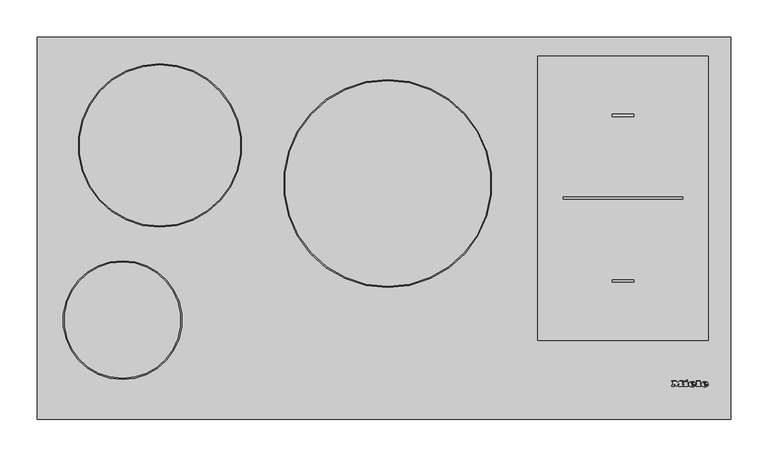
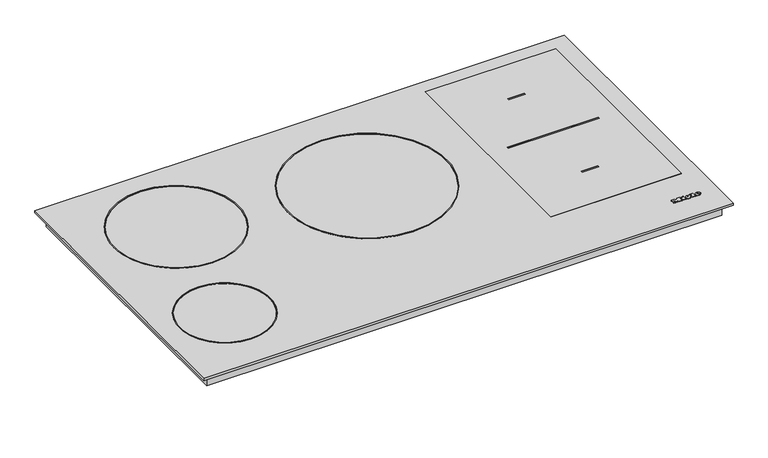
"""IFC4 building model written with IfcOpenShell, lengths in millimetres: proxy geometry, 11512090_CH_KM7629FX : 26762960_CH_11512090_KM7629FX."""

import ifcopenshell
import ifcopenshell.guid

model = None  # the IFC model being written
_history = None  # IfcOwnerHistory: only IFC2X3 demands one
_inside = {}  # id of a spatial element -> (the spatial element, [elements in it])
_under = {}  # id of a project, library or spatial element -> (it, [spatial elements below it])
_declared = {}  # id of a project -> (the project, [libraries it declares])
_typed = {}  # id of a type object -> (the type object, [elements of that type])
_made_of = {}  # id of a material, layer set ... -> (it, [elements and type objects made of it])


def new_model(schema):
    """Start an empty IFC model of exactly this schema.

    Asked for "IFC4X3", IfcOpenShell would pick the latest addendum, in which some entities
    have other attributes; the version numbers below select the first issue.
    IFC2X3 requires an IfcOwnerHistory on every rooted entity: one is made here for all.
    """
    global model, _history
    if schema == "IFC4X3":
        model = ifcopenshell.file(schema_version=(4, 3, 0, 0))
    else:
        model = ifcopenshell.file(schema=schema)
    _inside.clear()
    _under.clear()
    _declared.clear()
    _typed.clear()
    _made_of.clear()
    _history = None
    if model.schema == "IFC2X3":
        org = make("IfcOrganization", Name="unknown")
        user = make(
            "IfcPersonAndOrganization",
            ThePerson=make("IfcPerson", FamilyName="unknown"),
            TheOrganization=org,
        )
        app = make(
            "IfcApplication",
            ApplicationDeveloper=org,
            Version="unknown",
            ApplicationFullName="unknown",
            ApplicationIdentifier="unknown",
        )
        _history = make(
            "IfcOwnerHistory",
            OwningUser=user,
            OwningApplication=app,
            ChangeAction="ADDED",
            CreationDate=0,
        )
    return model


def make(cls, **values):
    """One entity of the class cls with the attributes given. An attribute that is None is left unset."""
    return model.create_entity(
        cls, **{name: value for name, value in values.items() if value is not None}
    )


def rooted(cls, **values):
    """An entity with a GlobalId (a new one), such as an element, a storey or a relation."""
    return make(cls, GlobalId=ifcopenshell.guid.new(), OwnerHistory=_history, **values)


def si_unit(unit_type, name, prefix=None):
    """IfcSIUnit, for example si_unit("LENGTHUNIT", "METRE", prefix="MILLI")."""
    return make("IfcSIUnit", UnitType=unit_type, Prefix=prefix, Name=name)


def assignment(units):
    """IfcUnitAssignment: the units of a project."""
    return None if units is None else make("IfcUnitAssignment", Units=units)


def point(xyz):
    """IfcCartesianPoint."""
    return None if xyz is None else make("IfcCartesianPoint", Coordinates=xyz)


def direction(xyz):
    """IfcDirection."""
    return None if xyz is None else make("IfcDirection", DirectionRatios=xyz)


def frame(location, z_axis=None, x_axis=None):
    """IfcAxis2Placement3D, a coordinate frame: its origin and axes. An axis left out is left unset."""
    return make(
        "IfcAxis2Placement3D",
        Location=point(location),
        Axis=direction(z_axis),
        RefDirection=direction(x_axis),
    )


def frame_2d(location, x_axis=None):
    """IfcAxis2Placement2D, a coordinate frame in the plane: its origin and x axis."""
    return make(
        "IfcAxis2Placement2D", Location=point(location), RefDirection=direction(x_axis)
    )


def origin():
    """The frame at (0, 0, 0) with its axes left unset."""
    return frame((0.0, 0.0, 0.0))


def origin_with_axes():
    """The frame at (0, 0, 0) with the z axis (0, 0, 1) and the x axis (1, 0, 0) written out."""
    return frame((0.0, 0.0, 0.0), z_axis=(0.0, 0.0, 1.0), x_axis=(1.0, 0.0, 0.0))


def place(relative_to, where):
    """IfcLocalPlacement: puts the frame where relative to a parent placement (None: the world)."""
    return make(
        "IfcLocalPlacement", PlacementRelTo=relative_to, RelativePlacement=where
    )


def context(
    kind, dimensions, precision=None, world=None, true_north=None, identifier=None
):
    """IfcGeometricRepresentationContext, for example the 3D "Model" context."""
    return make(
        "IfcGeometricRepresentationContext",
        ContextIdentifier=identifier,
        ContextType=kind,
        CoordinateSpaceDimension=dimensions,
        Precision=precision,
        WorldCoordinateSystem=world,
        TrueNorth=true_north,
    )


def project(units=None, contexts=None):
    """IfcProject with its units and contexts."""
    return rooted(
        "IfcProject",
        Name="project",
        RepresentationContexts=contexts,
        UnitsInContext=assignment(units),
    )


def spatial(cls, under=None, at=None, **own):
    """A site, building, storey or space (cls), placed at a placement, below another one or the project."""
    s = rooted(cls, ObjectPlacement=at, **own)
    if under is not None:
        _under.setdefault(under.id(), (under, []))[1].append(s)
    return s


def polyline(points):
    """IfcPolyline through the points."""
    return make("IfcPolyline", Points=[point(p) for p in points])


def circle_curve(where, radius):
    """IfcCircle in the frame where."""
    return make("IfcCircle", Position=where, Radius=radius)


def ellipse_curve(where, semi_axis1, semi_axis2):
    """IfcEllipse in the frame where."""
    return make(
        "IfcEllipse", Position=where, SemiAxis1=semi_axis1, SemiAxis2=semi_axis2
    )


def trimmed(basis, trim1, trim2, sense, master):
    """IfcTrimmedCurve: the piece of a basis curve between two trims."""
    return make(
        "IfcTrimmedCurve",
        BasisCurve=basis,
        Trim1=trim1,
        Trim2=trim2,
        SenseAgreement=sense,
        MasterRepresentation=master,
    )


def segment(curve, same_sense, transition):
    """IfcCompositeCurveSegment."""
    return make(
        "IfcCompositeCurveSegment",
        Transition=transition,
        SameSense=same_sense,
        ParentCurve=curve,
    )


def composite_curve(segments, self_intersect=None):
    """IfcCompositeCurve: segments joined end to end."""
    return make("IfcCompositeCurve", Segments=segments, SelfIntersect=self_intersect)


def outline(outer, holes=None, kind="AREA"):
    """IfcArbitraryClosedProfileDef: a profile drawn as a closed curve; with holes, ...WithVoids."""
    if holes is None:
        return make("IfcArbitraryClosedProfileDef", ProfileType=kind, OuterCurve=outer)
    return make(
        "IfcArbitraryProfileDefWithVoids",
        ProfileType=kind,
        OuterCurve=outer,
        InnerCurves=holes,
    )


def extrude(swept, where, along, depth):
    """IfcExtrudedAreaSolid: the profile swept, set in the frame where, extruded along a direction by depth."""
    return make(
        "IfcExtrudedAreaSolid",
        SweptArea=swept,
        Position=where,
        ExtrudedDirection=direction(along),
        Depth=depth,
    )


def shape(context_of_items, identifier, shape_type, items):
    """IfcShapeRepresentation: the items that make up one representation, for example the "Body"."""
    return make(
        "IfcShapeRepresentation",
        ContextOfItems=context_of_items,
        RepresentationIdentifier=identifier,
        RepresentationType=shape_type,
        Items=items,
    )


def source(mapping_origin, context_of_items, identifier, shape_type, items):
    """IfcRepresentationMap: a shape defined once, which mapped items show again and again."""
    return make(
        "IfcRepresentationMap",
        MappingOrigin=mapping_origin,
        MappedRepresentation=shape(context_of_items, identifier, shape_type, items),
    )


def transform(
    local_origin,
    x_axis=None,
    y_axis=None,
    z_axis=None,
    scale=None,
    scale2=None,
    scale3=None,
    uniform=True,
):
    """IfcCartesianTransformationOperator3D, or its non-uniform kind. x_axis, y_axis, z_axis: its Axis1, 2, 3."""
    if uniform:
        return make(
            "IfcCartesianTransformationOperator3D",
            Axis1=direction(x_axis),
            Axis2=direction(y_axis),
            LocalOrigin=point(local_origin),
            Scale=scale,
            Axis3=direction(z_axis),
        )
    return make(
        "IfcCartesianTransformationOperator3DnonUniform",
        Axis1=direction(x_axis),
        Axis2=direction(y_axis),
        LocalOrigin=point(local_origin),
        Scale=scale,
        Axis3=direction(z_axis),
        Scale2=scale2,
        Scale3=scale3,
    )


def mapped(mapping_source, mapping_target):
    """IfcMappedItem: shows the shape of a source again, moved by a transform."""
    return make(
        "IfcMappedItem", MappingSource=mapping_source, MappingTarget=mapping_target
    )


def made_of(thing, what):
    """Note that an element or type object is made of a material, layer set ...; save() writes the relation."""
    if what is not None:
        _made_of.setdefault(what.id(), (what, []))[1].append(thing)
    return thing


def element(
    cls,
    number,
    at=None,
    inside=None,
    cuts=None,
    type_object=None,
    material=None,
    context=None,
    identifier="Body",
    shape_type=None,
    held_by="IfcProductDefinitionShape",
    body=None,
    shapes=None,
    **own,
):
    """One element of the class cls, such as IfcWall. Its Tag is "e" and its number.

    at: its placement. inside: the storey or other place that contains it. cuts: it is an
    opening in that element (IfcRelVoidsElement). A single representation is given by context,
    identifier, shape_type and body (its items); several are given by shapes. held_by: the class
    of the entity that holds the representations. save() writes the other relations.
    """
    e = rooted(cls, Tag="e%d" % number, ObjectPlacement=at, **own)
    if body is not None:
        shapes = [shape(context, identifier, shape_type, body)]
    if shapes is not None:
        e.Representation = make(held_by, Representations=shapes)
    if inside is not None:
        _inside.setdefault(inside.id(), (inside, []))[1].append(e)
    if cuts is not None:
        rooted(
            "IfcRelVoidsElement", RelatingBuildingElement=cuts, RelatedOpeningElement=e
        )
    if type_object is not None:
        _typed.setdefault(type_object.id(), (type_object, []))[1].append(e)
    return made_of(e, material)


def aggregate(whole, parts):
    """IfcRelAggregates: a whole, such as a stair, and the parts it consists of."""
    return rooted("IfcRelAggregates", RelatingObject=whole, RelatedObjects=parts)


def save(model, path):
    """Write the relations noted so far, then the file.

    IfcRelAggregates (storeys below a building ...), IfcRelContainedInSpatialStructure (elements
    in a storey), IfcRelDefinesByType, IfcRelAssociatesMaterial and IfcRelDeclares: one each for
    every whole, place, type object, material and project.
    """
    for whole, parts in _under.values():
        aggregate(whole, parts)
    for where, things in _inside.values():
        rooted(
            "IfcRelContainedInSpatialStructure",
            RelatedElements=things,
            RelatingStructure=where,
        )
    for kind, things in _typed.values():
        rooted("IfcRelDefinesByType", RelatedObjects=things, RelatingType=kind)
    for what, things in _made_of.values():
        rooted("IfcRelAssociatesMaterial", RelatedObjects=things, RelatingMaterial=what)
    for by, libraries in _declared.values():
        rooted("IfcRelDeclares", RelatingContext=by, RelatedDefinitions=libraries)
    model.write(path)


def plane_surface(at):
    """IfcPlane: the flat surface through the origin of the frame at, square to its z axis."""
    return make("IfcPlane", Position=at)


def cylinder_surface(at, radius):
    """IfcCylindricalSurface: all points at the distance radius from the z axis of the frame at."""
    return make("IfcCylindricalSurface", Position=at, Radius=radius)


def revolved_surface(curve, axis_point, axis_direction):
    """IfcSurfaceOfRevolution: the curve turned about the line through axis_point along axis_direction."""
    return make(
        "IfcSurfaceOfRevolution",
        SweptCurve=make("IfcArbitraryOpenProfileDef", ProfileType="CURVE", Curve=curve),
        AxisPosition=make("IfcAxis1Placement", Location=point(axis_point), Axis=direction(axis_direction)),
    )


def extruded_surface(curve, direction_of_extrusion, depth):
    """IfcSurfaceOfLinearExtrusion: the curve pushed along a direction by depth."""
    return make(
        "IfcSurfaceOfLinearExtrusion",
        SweptCurve=make("IfcArbitraryOpenProfileDef", ProfileType="CURVE", Curve=curve),
        ExtrudedDirection=direction(direction_of_extrusion),
        Depth=depth,
    )


def advanced_brep(points, edges, surfaces, faces):
    """IfcAdvancedBrep: a solid bounded by faces that lie on surfaces and meet in shared edges.

    An edge is (start, end): straight between two places in points (the first is 0);
    or (start, end, curve); or (start, end, curve, False) where it runs against its curve.
    A face is (place in surfaces, loops), or (place, loops, False) where it looks against
    its surface's normal. A loop lists edges by number (the first is 1), with a minus sign
    where the edge is run from its end to its start. The first loop is the outer one.
    """
    corners = [point(p) for p in points]
    vertices = [make("IfcVertexPoint", VertexGeometry=c) for c in corners]
    made = []
    for start, end, *more in edges:
        made.append(
            make(
                "IfcEdgeCurve",
                EdgeStart=vertices[start],
                EdgeEnd=vertices[end],
                EdgeGeometry=more[0] if more else make("IfcPolyline", Points=[corners[start], corners[end]]),
                SameSense=more[1] if len(more) > 1 else True,
            )
        )
    hull = []
    for where, loops, *sense in faces:
        bounds = []
        for j, loop in enumerate(loops):
            ring = [make("IfcOrientedEdge", EdgeElement=made[abs(k) - 1], Orientation=k > 0) for k in loop]
            bounds.append(
                make(
                    "IfcFaceOuterBound" if j == 0 else "IfcFaceBound",
                    Bound=make("IfcEdgeLoop", EdgeList=ring),
                    Orientation=True,
                )
            )
        hull.append(make("IfcAdvancedFace", Bounds=bounds, FaceSurface=surfaces[where], SameSense=sense[0] if sense else True))
    return make("IfcAdvancedBrep", Outer=make("IfcClosedShell", CfsFaces=hull))


def specialty_equipment_fe1162e7(model_context):
    return source(origin(), model_context, "Body", "SolidModel", [
        advanced_brep(
        [(428.648, 45.8948833, 4.9922537), (428.648, 46.7028828, 4.9931551), (434.0, 46.7028828, 4.9931551), (424.688, 46.7028828, 4.9931551), (426.888, 43.9988845, 4.9901386), (433.864, 45.8948833, 4.9922537), (431.448, 45.8948833, 4.9922537), (429.544, 44.9988838, 4.9912542), (428.648, 47.7268821, 4.9942974), (428.648, 48.5988816, 4.9952701), (430.016, 48.5988816, 4.9952701), (430.016, 47.7268821, 4.9942974), (428.648, 45.8959988, 3.9922543), (429.544, 44.9999994, 3.9912548), (431.448, 45.8959988, 3.9922543), (433.864, 45.8959988, 3.9922543), (426.888, 44.0, 3.9901393), (424.688, 46.7039983, 3.9931557), (434.0, 46.7039983, 3.9931557), (428.648, 46.7039983, 3.9931557), (428.648, 47.7279977, 3.994298), (430.016, 47.7279977, 3.994298), (430.016, 48.5999971, 3.9952707), (428.648, 48.5999971, 3.9952707)],
        [
            (0, 1),
            (1, 2),
            (2, 3, ellipse_curve(frame((429.344, 46.7028828, 4.9931551), z_axis=(0.0, -0.0011155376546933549, 0.9999993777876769), x_axis=(-1.0, 0.0, 0.0)), 4.656, 3.848)),
            (3, 4, circle_curve(frame((427.7840436, 46.9748826, 4.9934585), z_axis=(0.0, -0.0011155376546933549, 0.9999993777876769), x_axis=(0.0, -0.9999993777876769, -0.0011155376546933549)), 3.1079688)),
            (4, 5, circle_curve(frame((429.2507936, 49.0868813, 4.9958145), z_axis=(0.0, -0.0011155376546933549, 0.9999993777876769), x_axis=(0.0, -0.9999993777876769, -0.0011155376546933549)), 5.6098607)),
            (5, 6),
            (6, 7, circle_curve(frame((429.9350588, 46.6388828, 4.9930837), z_axis=(0.0, 0.0011155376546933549, -0.9999993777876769), x_axis=(0.0, -0.9999993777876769, -0.0011155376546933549)), 1.6859795)),
            (7, 0, circle_curve(frame((429.544, 45.8948833, 4.9922537), z_axis=(0.0, 0.0011155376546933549, -0.9999993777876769), x_axis=(0.0, -0.9999993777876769, -0.0011155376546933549)), 0.896)),
            (8, 9),
            (9, 10, circle_curve(frame((429.332, 48.5988816, 4.9952701), z_axis=(0.0, 0.0011155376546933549, -0.9999993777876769), x_axis=(0.0, -0.9999993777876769, -0.0011155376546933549)), 0.684)),
            (10, 11),
            (11, 8),
            (12, 13, circle_curve(frame((429.544, 45.8959988, 3.9922543), z_axis=(0.0, -0.0011155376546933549, 0.9999993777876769), x_axis=(0.0, -0.9999993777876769, -0.0011155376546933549)), 0.896)),
            (13, 14, circle_curve(frame((429.9350588, 46.6399984, 3.9930843), z_axis=(0.0, -0.0011155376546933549, 0.9999993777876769), x_axis=(0.0, -0.9999993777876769, -0.0011155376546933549)), 1.6859795)),
            (14, 15),
            (15, 16, circle_curve(frame((429.2507936, 49.0879968, 3.9958151), z_axis=(0.0, 0.0011155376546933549, -0.9999993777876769), x_axis=(0.0, -0.9999993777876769, -0.0011155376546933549)), 5.6098607)),
            (16, 17, circle_curve(frame((427.7840436, 46.9759981, 3.9934591), z_axis=(0.0, 0.0011155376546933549, -0.9999993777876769), x_axis=(0.0, -0.9999993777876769, -0.0011155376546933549)), 3.1079688)),
            (17, 18, ellipse_curve(frame((429.344, 46.7039983, 3.9931557), z_axis=(0.0, 0.0011155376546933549, -0.9999993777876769), x_axis=(-1.0, 0.0, 0.0)), 4.656, 3.848)),
            (18, 19),
            (19, 12),
            (20, 21),
            (21, 22),
            (22, 23, circle_curve(frame((429.332, 48.5999971, 3.9952707), z_axis=(0.0, -0.0011155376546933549, 0.9999993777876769), x_axis=(0.0, -0.9999993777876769, -0.0011155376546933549)), 0.684)),
            (23, 20),
            (0, 12),
            (19, 1),
            (18, 2),
            (5, 15),
            (14, 6),
            (17, 3),
            (13, 7),
            (16, 4),
            (8, 20),
            (23, 9),
            (22, 10),
            (21, 11),
        ],
        [
            plane_surface(frame((428.648, 46.7028828, 4.9931551), z_axis=(0.0, -0.0011155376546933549, 0.9999993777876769), x_axis=(0.0, 0.9999993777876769, 0.0011155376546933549))),
            plane_surface(frame((428.648, 46.7039983, 3.9931557), z_axis=(0.0, 0.0011155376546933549, -0.9999993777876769), x_axis=(0.0, -0.9999993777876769, -0.0011155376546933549))),
            plane_surface(frame((428.648, 45.8948833, 4.9922537), z_axis=(1.0000000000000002, 0.0, 0.0), x_axis=(0.0, 0.001115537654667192, -0.999999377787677))),
            plane_surface(frame((428.648, 46.7028828, 4.9931551), z_axis=(0.0, -0.999999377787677, -0.001115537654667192), x_axis=(0.0, 0.001115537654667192, -0.999999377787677))),
            plane_surface(frame((433.864, 45.8948833, 4.9922537), z_axis=(0.0, 0.999999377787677, 0.001115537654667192), x_axis=(0.0, 0.001115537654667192, -0.999999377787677))),
            extruded_surface(trimmed(ellipse_curve(frame((429.344, 46.7051139, 2.9931563), z_axis=(0.0, -0.0011155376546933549, 0.9999993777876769), x_axis=(-1.0, 0.0, 0.0)), 4.656, 3.848), [point((434.0, 46.7051139, 2.9931563))], [point((424.688, 46.7051139, 2.9931563))], True, "CARTESIAN"), (0.0, -0.001115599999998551, 0.9999994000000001), 1.00000002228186),
            revolved_surface(polyline([(429.9350588, 44.954019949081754, 3.991203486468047), (429.9350588, 44.95290441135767, 4.99120292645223)]), (429.9350588, 46.6399984, 3.9930843), (0.0, 0.0011155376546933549, -0.9999993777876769)),
            revolved_surface(polyline([(429.544, 44.99999935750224, 3.9912547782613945), (429.544, 44.99888381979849, 4.991254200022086)]), (429.544, 45.8959988, 3.9922543), (0.0, 0.0011155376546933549, -0.9999993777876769)),
            cylinder_surface(frame((427.7840436, 46.9759981, 3.9934591), z_axis=(0.0, -0.0011155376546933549, 0.9999993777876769), x_axis=(0.0, -0.9999993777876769, -0.0011155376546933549)), 3.1079688),
            cylinder_surface(frame((429.2507936, 49.0879968, 3.9958151), z_axis=(0.0, -0.0011155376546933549, 0.9999993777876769), x_axis=(0.0, -0.9999993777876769, -0.0011155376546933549)), 5.6098607),
            plane_surface(frame((428.648, 47.7268821, 4.9942974), z_axis=(1.0000000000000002, 0.0, 0.0), x_axis=(0.0, 0.001115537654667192, -0.999999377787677))),
            revolved_surface(polyline([(429.332, 47.915997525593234, 3.9945076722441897), (429.332, 47.91488198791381, 4.994507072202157)]), (429.332, 48.5999971, 3.9952707), (0.0, 0.0011155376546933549, -0.9999993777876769)),
            plane_surface(frame((430.016, 48.5988816, 4.9952701), z_axis=(-1.0000000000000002, 0.0, 0.0), x_axis=(0.0, 0.001115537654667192, -0.999999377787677))),
            plane_surface(frame((430.016, 47.7268821, 4.9942974), z_axis=(0.0, 0.999999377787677, 0.001115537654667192), x_axis=(0.0, 0.001115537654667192, -0.999999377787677))),
        ],
        [
            (0, [[1, 2, 3, 4, 5, 6, 7, 8], [9, 10, 11, 12]]),
            (1, [[13, 14, 15, 16, 17, 18, 19, 20], [21, 22, 23, 24]]),
            (2, [[-1, 25, -20, 26]]),
            (3, [[-2, -26, -19, 27]]),
            (4, [[-6, 28, -15, 29]]),
            (5, [[-3, -27, -18, 30]]),
            (6, [[-7, -29, -14, 31]]),
            (7, [[-8, -31, -13, -25]]),
            (8, [[-4, -30, -17, 32]]),
            (9, [[-5, -32, -16, -28]]),
            (10, [[-9, 33, -24, 34]]),
            (11, [[-10, -34, -23, 35]]),
            (12, [[-11, -35, -22, 36]]),
            (13, [[-12, -36, -21, -33]]),
        ],
    ),
        advanced_brep(
        [(411.952, 45.8948833, 4.9922537), (411.952, 46.7028828, 4.9931551), (417.304, 46.7028828, 4.9931551), (407.992, 46.7028828, 4.9931551), (410.192, 43.9988845, 4.9901386), (417.168, 45.8948833, 4.9922537), (414.752, 45.8948833, 4.9922537), (412.848, 44.9988838, 4.9912542), (411.952, 47.7268821, 4.9942974), (411.952, 48.5988816, 4.9952701), (413.32, 48.5988816, 4.9952701), (413.32, 47.7268821, 4.9942974), (411.952, 45.8959988, 3.9922543), (412.848, 44.9999994, 3.9912548), (414.752, 45.8959988, 3.9922543), (417.168, 45.8959988, 3.9922543), (410.192, 44.0, 3.9901393), (407.992, 46.7039983, 3.9931557), (417.304, 46.7039983, 3.9931557), (411.952, 46.7039983, 3.9931557), (411.952, 47.7279977, 3.994298), (413.32, 47.7279977, 3.994298), (413.32, 48.5999971, 3.9952707), (411.952, 48.5999971, 3.9952707)],
        [
            (0, 1),
            (1, 2),
            (2, 3, ellipse_curve(frame((412.648, 46.7028828, 4.9931551), z_axis=(0.0, -0.0011155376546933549, 0.9999993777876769), x_axis=(-1.0, 0.0, 0.0)), 4.656, 3.848)),
            (3, 4, circle_curve(frame((411.0880436, 46.9748826, 4.9934585), z_axis=(0.0, -0.0011155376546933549, 0.9999993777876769), x_axis=(0.0, -0.9999993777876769, -0.0011155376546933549)), 3.1079688)),
            (4, 5, circle_curve(frame((412.5547936, 49.0868813, 4.9958145), z_axis=(0.0, -0.0011155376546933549, 0.9999993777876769), x_axis=(0.0, -0.9999993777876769, -0.0011155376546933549)), 5.6098607)),
            (5, 6),
            (6, 7, circle_curve(frame((413.2390588, 46.6388828, 4.9930837), z_axis=(0.0, 0.0011155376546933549, -0.9999993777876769), x_axis=(0.0, -0.9999993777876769, -0.0011155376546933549)), 1.6859795)),
            (7, 0, circle_curve(frame((412.848, 45.8948833, 4.9922537), z_axis=(0.0, 0.0011155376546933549, -0.9999993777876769), x_axis=(0.0, -0.9999993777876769, -0.0011155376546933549)), 0.896)),
            (8, 9),
            (9, 10, circle_curve(frame((412.636, 48.5988816, 4.9952701), z_axis=(0.0, 0.0011155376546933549, -0.9999993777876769), x_axis=(0.0, -0.9999993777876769, -0.0011155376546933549)), 0.684)),
            (10, 11),
            (11, 8),
            (12, 13, circle_curve(frame((412.848, 45.8959988, 3.9922543), z_axis=(0.0, -0.0011155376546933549, 0.9999993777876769), x_axis=(0.0, -0.9999993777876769, -0.0011155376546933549)), 0.896)),
            (13, 14, circle_curve(frame((413.2390588, 46.6399984, 3.9930843), z_axis=(0.0, -0.0011155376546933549, 0.9999993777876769), x_axis=(0.0, -0.9999993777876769, -0.0011155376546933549)), 1.6859795)),
            (14, 15),
            (15, 16, circle_curve(frame((412.5547936, 49.0879968, 3.9958151), z_axis=(0.0, 0.0011155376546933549, -0.9999993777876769), x_axis=(0.0, -0.9999993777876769, -0.0011155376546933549)), 5.6098607)),
            (16, 17, circle_curve(frame((411.0880436, 46.9759981, 3.9934591), z_axis=(0.0, 0.0011155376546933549, -0.9999993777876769), x_axis=(0.0, -0.9999993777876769, -0.0011155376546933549)), 3.1079688)),
            (17, 18, ellipse_curve(frame((412.648, 46.7039983, 3.9931557), z_axis=(0.0, 0.0011155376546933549, -0.9999993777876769), x_axis=(-1.0, 0.0, 0.0)), 4.656, 3.848)),
            (18, 19),
            (19, 12),
            (20, 21),
            (21, 22),
            (22, 23, circle_curve(frame((412.636, 48.5999971, 3.9952707), z_axis=(0.0, -0.0011155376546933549, 0.9999993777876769), x_axis=(0.0, -0.9999993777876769, -0.0011155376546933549)), 0.684)),
            (23, 20),
            (0, 12),
            (19, 1),
            (18, 2),
            (5, 15),
            (14, 6),
            (17, 3),
            (13, 7),
            (16, 4),
            (8, 20),
            (23, 9),
            (22, 10),
            (21, 11),
        ],
        [
            plane_surface(frame((411.952, 46.7028828, 4.9931551), z_axis=(0.0, -0.0011155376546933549, 0.9999993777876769), x_axis=(0.0, 0.9999993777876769, 0.0011155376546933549))),
            plane_surface(frame((411.952, 46.7039983, 3.9931557), z_axis=(0.0, 0.0011155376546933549, -0.9999993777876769), x_axis=(0.0, -0.9999993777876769, -0.0011155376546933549))),
            plane_surface(frame((411.952, 45.8948833, 4.9922537), z_axis=(1.0000000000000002, 0.0, 0.0), x_axis=(0.0, 0.001115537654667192, -0.999999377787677))),
            plane_surface(frame((411.952, 46.7028828, 4.9931551), z_axis=(0.0, -0.999999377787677, -0.001115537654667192), x_axis=(0.0, 0.001115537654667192, -0.999999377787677))),
            plane_surface(frame((417.168, 45.8948833, 4.9922537), z_axis=(0.0, 0.999999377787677, 0.001115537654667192), x_axis=(0.0, 0.001115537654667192, -0.999999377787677))),
            extruded_surface(trimmed(ellipse_curve(frame((412.648, 46.7051139, 2.9931563), z_axis=(0.0, -0.0011155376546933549, 0.9999993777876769), x_axis=(-1.0, 0.0, 0.0)), 4.656, 3.848), [point((417.304, 46.7051139, 2.9931563))], [point((407.992, 46.7051139, 2.9931563))], True, "CARTESIAN"), (0.0, -0.001115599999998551, 0.9999994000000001), 1.00000002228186),
            revolved_surface(polyline([(413.2390588, 44.954019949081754, 3.991203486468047), (413.2390588, 44.95290441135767, 4.99120292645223)]), (413.2390588, 46.6399984, 3.9930843), (0.0, 0.0011155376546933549, -0.9999993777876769)),
            revolved_surface(polyline([(412.848, 44.99999935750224, 3.9912547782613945), (412.848, 44.99888381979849, 4.991254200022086)]), (412.848, 45.8959988, 3.9922543), (0.0, 0.0011155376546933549, -0.9999993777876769)),
            cylinder_surface(frame((411.0880436, 46.9759981, 3.9934591), z_axis=(0.0, -0.0011155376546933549, 0.9999993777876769), x_axis=(0.0, -0.9999993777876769, -0.0011155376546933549)), 3.1079688),
            cylinder_surface(frame((412.5547936, 49.0879968, 3.9958151), z_axis=(0.0, -0.0011155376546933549, 0.9999993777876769), x_axis=(0.0, -0.9999993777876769, -0.0011155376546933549)), 5.6098607),
            plane_surface(frame((411.952, 47.7268821, 4.9942974), z_axis=(1.0000000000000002, 0.0, 0.0), x_axis=(0.0, 0.001115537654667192, -0.999999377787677))),
            revolved_surface(polyline([(412.636, 47.915997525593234, 3.9945076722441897), (412.636, 47.91488198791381, 4.994507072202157)]), (412.636, 48.5999971, 3.9952707), (0.0, 0.0011155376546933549, -0.9999993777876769)),
            plane_surface(frame((413.32, 48.5988816, 4.9952701), z_axis=(-1.0000000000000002, 0.0, 0.0), x_axis=(0.0, 0.001115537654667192, -0.999999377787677))),
            plane_surface(frame((413.32, 47.7268821, 4.9942974), z_axis=(0.0, 0.999999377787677, 0.001115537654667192), x_axis=(0.0, 0.001115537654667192, -0.999999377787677))),
        ],
        [
            (0, [[1, 2, 3, 4, 5, 6, 7, 8], [9, 10, 11, 12]]),
            (1, [[13, 14, 15, 16, 17, 18, 19, 20], [21, 22, 23, 24]]),
            (2, [[-1, 25, -20, 26]]),
            (3, [[-2, -26, -19, 27]]),
            (4, [[-6, 28, -15, 29]]),
            (5, [[-3, -27, -18, 30]]),
            (6, [[-7, -29, -14, 31]]),
            (7, [[-8, -31, -13, -25]]),
            (8, [[-4, -30, -17, 32]]),
            (9, [[-5, -32, -16, -28]]),
            (10, [[-9, 33, -24, 34]]),
            (11, [[-10, -34, -23, 35]]),
            (12, [[-11, -35, -22, 36]]),
            (13, [[-12, -36, -21, -33]]),
        ],
    ),
        extrude(outline(polyline([(0.0, 0.0), (-0.0109086, -2.9993294), (-1.4390415, -2.9920868), (-1.4315307, 0.0), (0.0, 0.0)])), frame((403.208, 51.5279953, 3.998537), z_axis=(0.0, -0.001115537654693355, 0.999999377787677), x_axis=(-0.4247202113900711, 0.9053240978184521, 0.0010099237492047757)), (0.0, 0.0, 1.0), 1.0),
        extrude(outline(polyline([(-0.4933908, 2.4141097), (-2.7800844, -2.4601583), (-7.0459741, -0.4588767), (-7.4401145, -1.299018), (-8.6568709, -0.728194), (-5.9760369, 4.9862153), (-4.7592805, 4.4153913), (-5.1636142, 3.5535222), (-2.1941493, 2.1604399), (-1.7898157, 3.022309), (-0.4933908, 2.4141097)])), frame((403.208, 51.5279953, 3.998537), z_axis=(0.0, -0.001115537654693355, 0.999999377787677), x_axis=(-0.4247202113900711, 0.9053240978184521, 0.0010099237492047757)), (0.0, 0.0, 1.0), 1.0),
        extrude(outline(polyline([(0.0, 0.0), (0.0, -1.304), (-5.504, -1.304), (-5.504, 5.3519999), (-6.488, 5.3519999), (-6.488, 6.696), (0.0, 6.696), (0.0, 5.3519999), (-0.96, 5.3519999), (-0.96, 0.0), (0.0, 0.0)])), frame((417.752, 50.6959958, 3.9976089), z_axis=(0.0, -0.0011155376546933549, 0.9999993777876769), x_axis=(-1.0, 0.0, 0.0)), (0.0, 0.0, 1.0), 1.0),
        extrude(outline(polyline([(0.0, 0.0), (0.0, -1.304), (-5.576, -1.304), (-7.92, 1.696), (-10.256, -1.304), (-15.128, -1.304), (-15.128, 0.0), (-14.112, 0.0), (-14.112, 5.3519999), (-15.128, 5.3519999), (-15.128, 6.696), (-8.744, 6.696), (-8.744, 5.3519999), (-9.728, 5.3519999), (-9.728, 1.8807777), (-6.136, 6.696), (-2.56, 1.9488752), (-2.56, 5.3519999), (-3.52, 5.3519999), (-3.52, 6.696), (0.0, 6.696), (0.0, 5.3519999), (-0.968, 5.3519999), (-0.968, 0.0), (0.0, 0.0)])), frame((385.288, 50.6959958, 3.9976089), z_axis=(0.0, -0.0011155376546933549, 0.9999993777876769), x_axis=(-1.0, 0.0, 0.0)), (0.0, 0.0, 1.0), 1.0),
        extrude(outline(polyline([(290.3772603, 424.0), (283.0, 424.0), (283.0, 425.2557039), (289.1215564, 425.2557039), (289.1215564, 428.5519266), (283.470889, 428.5519266), (283.470889, 429.8076304), (289.1215564, 429.8076304), (289.1215564, 432.7899271), (283.156963, 432.7899271), (283.156963, 434.045631), (290.3772603, 434.045631), (290.3772603, 424.0)])), frame((0.0, 0.0, -78.0), z_axis=(0.0, 0.0, 1.0), x_axis=(1.0, 0.0, 0.0)), (0.0, 0.0, 1.0), 1.0),
        extrude(outline(polyline([(281.1164442, 424.0), (274.8379248, 424.0), (274.8379248, 425.2557039), (279.8607403, 425.2557039), (279.8607403, 434.045631), (281.1164442, 434.045631), (281.1164442, 424.0)])), frame((0.0, 0.0, -78.0), z_axis=(0.0, 0.0, 1.0), x_axis=(1.0, 0.0, 0.0)), (0.0, 0.0, 1.0), 1.0),
        extrude(outline(polyline([(464.0, 512.0), (464.0, 0.0), (-464.0, 0.0), (-464.0, 512.0), (464.0, 512.0)])), origin_with_axes(), (0.0, 0.0, 1.0), 4.0),
        extrude(outline(polyline([(451.5, 499.5), (451.5, 12.5), (-451.5, 12.5), (-451.5, 499.5), (451.5, 499.5)])), frame((0.0, 0.0, -22.0), z_axis=(0.0, 0.0, 1.0), x_axis=(1.0, 0.0, 0.0)), (0.0, 0.0, 1.0), 22.0),
        extrude(outline(composite_curve([segment(trimmed(circle_curve(frame_2d((5.0, 316.0)), 139.5), [point((5.0, 455.5))], [point((5.0, 176.5))], False, "CARTESIAN"), True, "CONTINUOUS"), segment(trimmed(circle_curve(frame_2d((5.0, 316.0)), 139.5), [point((5.0, 176.5))], [point((5.0, 455.5))], False, "CARTESIAN"), True, "CONTINUOUS")], self_intersect=False), holes=[composite_curve([segment(trimmed(circle_curve(frame_2d((5.0, 316.0)), 138.0), [point((5.0, 454.0))], [point((5.0, 178.0))], True, "CARTESIAN"), True, "CONTINUOUS"), segment(trimmed(circle_curve(frame_2d((5.0, 316.0)), 138.0), [point((5.0, 178.0))], [point((5.0, 454.0))], True, "CARTESIAN"), True, "CONTINUOUS")], self_intersect=False)]), frame((0.0, 0.0, 4.0), z_axis=(0.0, 0.0, 1.0), x_axis=(1.0, 0.0, 0.0)), (0.0, 0.0, 1.0), 1.0),
        extrude(outline(composite_curve([segment(trimmed(circle_curve(frame_2d((-300.0, 367.0)), 109.5), [point((-300.0, 476.5))], [point((-300.0, 257.5))], False, "CARTESIAN"), True, "CONTINUOUS"), segment(trimmed(circle_curve(frame_2d((-300.0, 367.0)), 109.5), [point((-300.0, 257.5))], [point((-300.0, 476.5))], False, "CARTESIAN"), True, "CONTINUOUS")], self_intersect=False), holes=[composite_curve([segment(trimmed(circle_curve(frame_2d((-300.0, 367.0)), 108.0), [point((-300.0, 475.0))], [point((-300.0, 259.0))], True, "CARTESIAN"), True, "CONTINUOUS"), segment(trimmed(circle_curve(frame_2d((-300.0, 367.0)), 108.0), [point((-300.0, 259.0))], [point((-300.0, 475.0))], True, "CARTESIAN"), True, "CONTINUOUS")], self_intersect=False)]), frame((0.0, 0.0, 4.0), z_axis=(0.0, 0.0, 1.0), x_axis=(1.0, 0.0, 0.0)), (0.0, 0.0, 1.0), 1.0),
        extrude(outline(composite_curve([segment(trimmed(circle_curve(frame_2d((-350.0, 133.0)), 79.5), [point((-350.0, 212.5))], [point((-350.0, 53.5))], False, "CARTESIAN"), True, "CONTINUOUS"), segment(trimmed(circle_curve(frame_2d((-350.0, 133.0)), 79.5), [point((-350.0, 53.5))], [point((-350.0, 212.5))], False, "CARTESIAN"), True, "CONTINUOUS")], self_intersect=False), holes=[composite_curve([segment(trimmed(circle_curve(frame_2d((-350.0, 133.0)), 78.0), [point((-350.0, 211.0))], [point((-350.0, 55.0))], True, "CARTESIAN"), True, "CONTINUOUS"), segment(trimmed(circle_curve(frame_2d((-350.0, 133.0)), 78.0), [point((-350.0, 55.0))], [point((-350.0, 211.0))], True, "CARTESIAN"), True, "CONTINUOUS")], self_intersect=False)]), frame((0.0, 0.0, 4.0), z_axis=(0.0, 0.0, 1.0), x_axis=(1.0, 0.0, 0.0)), (0.0, 0.0, 1.0), 1.0),
        extrude(outline(polyline([(434.0, 487.0), (434.0, 106.0), (206.0, 106.0), (206.0, 487.0), (434.0, 487.0)]), holes=[polyline([(334.5, 409.0), (305.5, 409.0), (305.5, 406.0), (334.5, 406.0), (334.5, 409.0)]), polyline([(400.0, 295.0), (400.0, 298.0), (240.0, 298.0), (240.0, 295.0), (400.0, 295.0)]), polyline([(334.5, 187.0), (305.5, 187.0), (305.5, 184.0), (334.5, 184.0), (334.5, 187.0)])]), frame((0.0, 0.0, 4.0), z_axis=(0.0, 0.0, 1.0), x_axis=(1.0, 0.0, 0.0)), (0.0, 0.0, 1.0), 1.0),
        extrude(outline(composite_curve([segment(trimmed(circle_curve(frame_2d((283.0, 429.0)), 7.5), [point((283.0, 436.5))], [point((283.0, 421.5))], False, "CARTESIAN"), True, "CONTINUOUS"), segment(trimmed(circle_curve(frame_2d((283.0, 429.0)), 7.5), [point((283.0, 421.5))], [point((283.0, 436.5))], False, "CARTESIAN"), True, "CONTINUOUS")], self_intersect=False)), frame((0.0, 0.0, -77.0), z_axis=(0.0, 0.0, 1.0), x_axis=(1.0, 0.0, 0.0)), (0.0, 0.0, 1.0), 30.0),
        extrude(outline(polyline([(361.0, 463.0), (361.0, 92.0), (-361.0, 92.0), (-361.0, 463.0), (361.0, 463.0)])), frame((0.0, 0.0, -47.0), z_axis=(0.0, 0.0, 1.0), x_axis=(1.0, 0.0, 0.0)), (0.0, 0.0, 1.0), 25.0),
    ])


if __name__ == "__main__":
    model = new_model("IFC4")
    model_context = context("Model", 3, world=origin())
    ifc_project = project(units=[si_unit("LENGTHUNIT", "METRE", prefix="MILLI")], contexts=[model_context])
    site = spatial("IfcSite", under=ifc_project)
    building = spatial("IfcBuilding", under=site)
    placement = place(None, origin())
    specialty_equipment_shape = specialty_equipment_fe1162e7(model_context)
    element("IfcBuildingElementProxy", 1, Name="11512090_CH_KM7629FX : 26762960_CH_11512090_KM7629FX", ObjectType="11512090_CH_KM7629FX : 26762960_CH_11512090_KM7629FX", at=placement, inside=building, context=model_context, shape_type="MappedRepresentation", body=[
        mapped(specialty_equipment_shape, transform((0.0, 0.0, 0.0), x_axis=(1.0, 0.0, 0.0), y_axis=(0.0, 1.0, 0.0), z_axis=(0.0, 0.0, 1.0))),
    ])
    save(model, "model.ifc")
